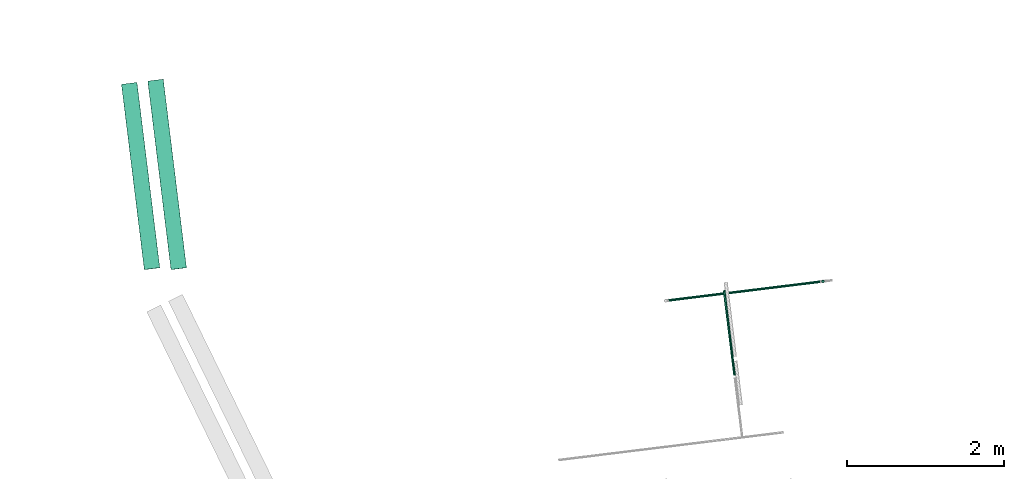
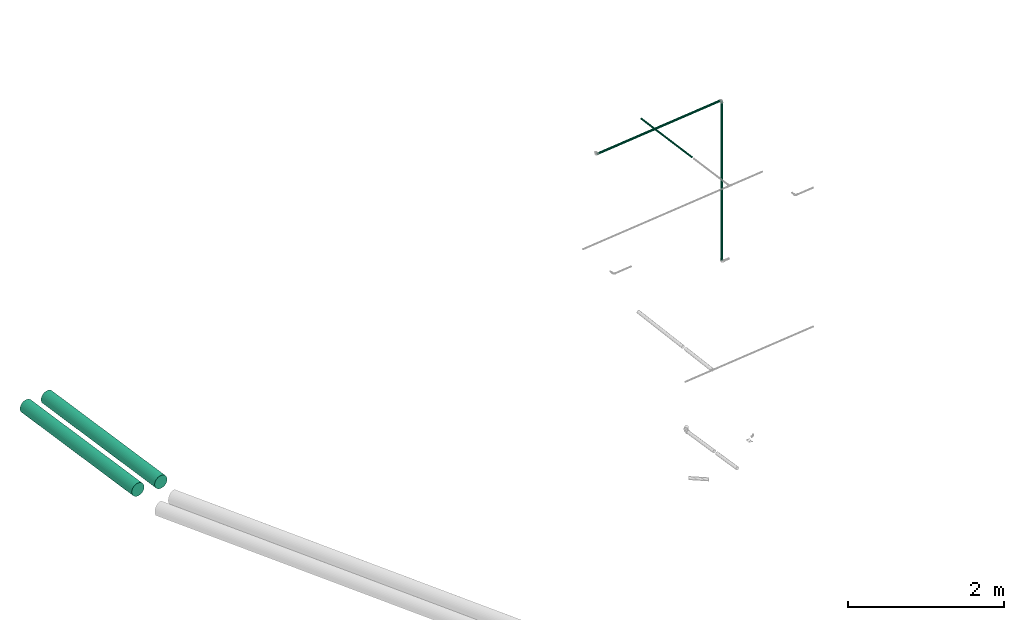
# One storey, part 2 of 8: 5 flow segments.
"""IFC2X3 building model written with IfcOpenShell, lengths in centimetres."""

from ifc_helpers import new_model, entity, si_unit, converted_unit, derived_unit, direction, frame, frame_2d, origin, origin_2d_with_axis, place, context, subcontext, project, spatial, circle, extrude, type_object, element, save


model = new_model("IFC2X3")

# Units and contexts
model_context = context("Model", 3, precision=0.001, world=origin(), true_north=direction((6.12303176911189e-17, 1.0)))
body_context = subcontext(model_context, "Body", "Model", "MODEL_VIEW")
ifc_project = project(units=[si_unit("LENGTHUNIT", "METRE", prefix="CENTI"), si_unit("AREAUNIT", "SQUARE_METRE"), si_unit("VOLUMEUNIT", "CUBIC_METRE"), converted_unit("PLANEANGLEUNIT", "DEGREE", entity("IfcRatioMeasure", 0.0174532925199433), si_unit("PLANEANGLEUNIT", "RADIAN"), dimensions=[0, 0, 0, 0, 0, 0, 0]), si_unit("MASSUNIT", "GRAM", prefix="KILO"), derived_unit("MASSDENSITYUNIT", [(si_unit("MASSUNIT", "GRAM", prefix="KILO"), 1), (si_unit("LENGTHUNIT", "METRE"), -3)]), derived_unit("MOMENTOFINERTIAUNIT", [(si_unit("LENGTHUNIT", "METRE"), 4)]), si_unit("TIMEUNIT", "SECOND"), si_unit("FREQUENCYUNIT", "HERTZ"), si_unit("THERMODYNAMICTEMPERATUREUNIT", "DEGREE_CELSIUS"), derived_unit("THERMALTRANSMITTANCEUNIT", [(si_unit("MASSUNIT", "GRAM", prefix="KILO"), 1), (si_unit("THERMODYNAMICTEMPERATUREUNIT", "KELVIN"), -1), (si_unit("TIMEUNIT", "SECOND"), -3)]), derived_unit("VOLUMETRICFLOWRATEUNIT", [(si_unit("LENGTHUNIT", "METRE"), 3), (si_unit("TIMEUNIT", "SECOND"), -1)]), si_unit("ELECTRICCURRENTUNIT", "AMPERE"), si_unit("ELECTRICVOLTAGEUNIT", "VOLT"), si_unit("POWERUNIT", "WATT"), si_unit("FORCEUNIT", "NEWTON", prefix="KILO"), si_unit("ILLUMINANCEUNIT", "LUX"), si_unit("LUMINOUSFLUXUNIT", "LUMEN"), si_unit("LUMINOUSINTENSITYUNIT", "CANDELA"), derived_unit("USERDEFINED", [(si_unit("MASSUNIT", "GRAM", prefix="KILO"), -1), (si_unit("LENGTHUNIT", "METRE"), -2), (si_unit("TIMEUNIT", "SECOND"), 3), (si_unit("LUMINOUSFLUXUNIT", "LUMEN"), 1)]), derived_unit("LINEARVELOCITYUNIT", [(si_unit("LENGTHUNIT", "METRE"), 1), (si_unit("TIMEUNIT", "SECOND"), -1)]), si_unit("PRESSUREUNIT", "PASCAL"), derived_unit("USERDEFINED", [(si_unit("LENGTHUNIT", "METRE"), -2), (si_unit("MASSUNIT", "GRAM", prefix="KILO"), 1), (si_unit("TIMEUNIT", "SECOND"), -2)]), derived_unit("LINEARFORCEUNIT", [(si_unit("MASSUNIT", "GRAM", prefix="KILO"), 1), (si_unit("LENGTHUNIT", "METRE"), 1), (si_unit("TIMEUNIT", "SECOND"), -2), (si_unit("LENGTHUNIT", "METRE"), -1)]), derived_unit("PLANARFORCEUNIT", [(si_unit("MASSUNIT", "GRAM", prefix="KILO"), 1), (si_unit("LENGTHUNIT", "METRE"), 1), (si_unit("TIMEUNIT", "SECOND"), -2), (si_unit("LENGTHUNIT", "METRE"), -2)])], contexts=[model_context])

# Site, building, storey
site_placement = place(None, origin())
site = spatial("IfcSite", under=ifc_project, at=site_placement, Name="Default", CompositionType="ELEMENT")
building_placement = place(site_placement, origin())
building = spatial("IfcBuilding", under=site, at=building_placement, Name="HIDROSSANITÁRIO", CompositionType="ELEMENT")
storey_placement = place(building_placement, origin())
storey = spatial("IfcBuildingStorey", under=building, at=storey_placement, Name="TERRENO", CompositionType="ELEMENT", Elevation=0.0)

# Flow segments
pipe_segment_type_1 = type_object("IfcPipeSegmentType", Name="Tipos de tubos:Tubo Marrom - Água Fria - Soldável", PredefinedType="NOTDEFINED")
flow_segment_1_placement = place(storey_placement, origin())
element("IfcFlowSegment", 1, at=flow_segment_1_placement, inside=storey, type_object=pipe_segment_type_1, Name="Tipos de tubos:Tubo Marrom - Água Fria - Soldável", ObjectType="Tipos de tubos:Tubo Marrom - Água Fria - Soldável", context=body_context, shape_type="SweptSolid", body=[
    extrude(circle(Radius=1.25, at=frame_2d((-2.14950323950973e-13, 1.94418427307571e-19), x_axis=(1.0, 0.0))), frame((-1580.80783040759, 3050.25479852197, 17.3894582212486), z_axis=(-0.122199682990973, 0.992505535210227, 7.34619039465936e-06), x_axis=(-0.992505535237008, -0.12219968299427, 0.0)), (0.0, 0.0, 1.0), 108.56855288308),
])
flow_segment_2_placement = place(storey_placement, origin())
element("IfcFlowSegment", 2, at=flow_segment_2_placement, inside=storey, type_object=pipe_segment_type_1, Name="Tipos de tubos:Tubo Marrom - Água Fria - Soldável", ObjectType="Tipos de tubos:Tubo Marrom - Água Fria - Soldável", context=body_context, shape_type="SweptSolid", body=[
    extrude(circle(Radius=1.6, at=frame_2d((-3.12828934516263e-47, -1.69197988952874e-15), x_axis=(1.0, 0.0))), frame((-1666.6255977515, 3145.23674069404, -5.0), z_axis=(0.992505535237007, 0.122199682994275, 0.0), x_axis=(0.122199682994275, -0.992505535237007, 0.0)), (0.0, 0.0, 1.0), 198.1),
])
flow_segment_3_placement = place(storey_placement, origin())
element("IfcFlowSegment", 3, at=flow_segment_3_placement, inside=storey, type_object=pipe_segment_type_1, Name="Tipos de tubos:Tubo Marrom - Água Fria - Soldável", ObjectType="Tipos de tubos:Tubo Marrom - Água Fria - Soldável", context=body_context, shape_type="SweptSolid", body=[
    extrude(circle(Radius=1.6, at=origin_2d_with_axis()), frame((-1468.07486542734, 3169.68278727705, -255.900000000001)), (0.0, 0.0, 1.0), 248.950000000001),
])
pipe_segment_type_2 = type_object("IfcPipeSegmentType", Name="Tipos de tubos:Tubo - Esgoto - Série Normal", PredefinedType="NOTDEFINED")
flow_segment_4_placement = place(storey_placement, origin())
element("IfcFlowSegment", 4, at=flow_segment_4_placement, inside=storey, type_object=pipe_segment_type_2, Name="Tipos de tubos:Tubo - Esgoto - Série Normal", ObjectType="Tipos de tubos:Tubo - Esgoto - Série Normal", context=body_context, shape_type="SweptSolid", body=[
    extrude(circle(Radius=10.0, at=origin_2d_with_axis()), frame((-2351.82161896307, 3421.83177193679, -327.378472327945), z_axis=(0.12214631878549, -0.992461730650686, 0.00999950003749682), x_axis=(0.992511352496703, 0.122152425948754, 0.0)), (0.0, 0.0, 1.0), 237.859124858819),
])
flow_segment_5_placement = place(storey_placement, origin())
element("IfcFlowSegment", 5, at=flow_segment_5_placement, inside=storey, type_object=pipe_segment_type_2, Name="Tipos de tubos:Tubo - Esgoto - Série Normal", ObjectType="Tipos de tubos:Tubo - Esgoto - Série Normal", context=body_context, shape_type="SweptSolid", body=[
    extrude(circle(Radius=10.0, at=frame_2d((-5.29099387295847e-14, -4.29881674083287e-15), x_axis=(1.0, 0.0))), frame((-2318.32888955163, 3425.95344053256, -327.42), z_axis=(0.12214631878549, -0.992461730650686, 0.00999950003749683), x_axis=(0.992511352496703, 0.122152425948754, 0.0)), (0.0, 0.0, 1.0), 242.012099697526),
])

save(model, "model.ifc")
